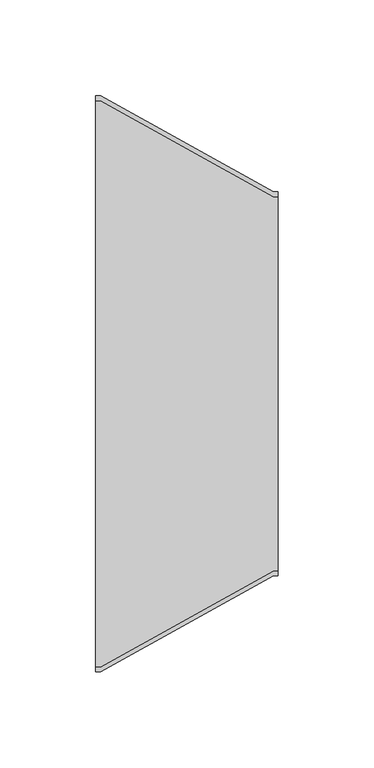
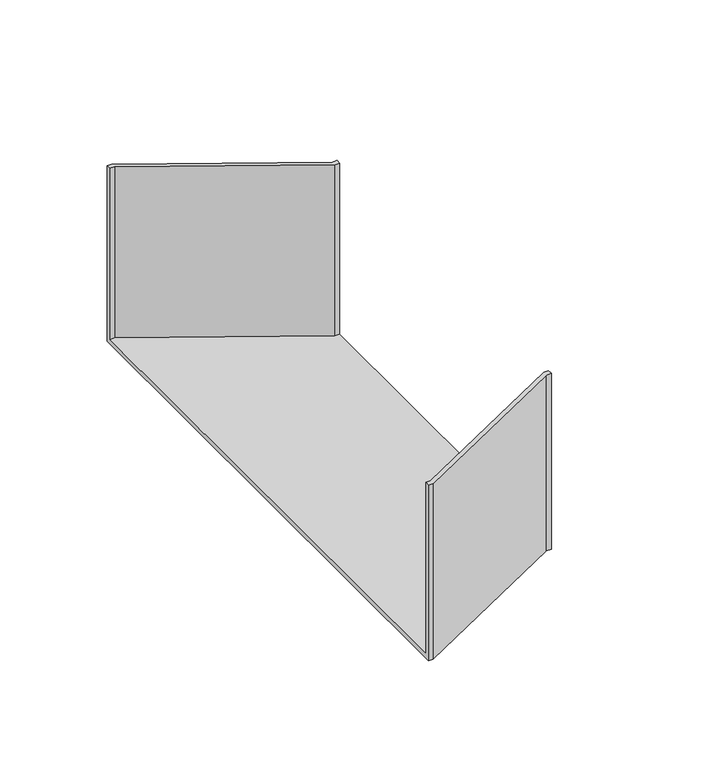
"""IFC4 building model written with IfcOpenShell, lengths in millimetres: cable carrier fitting geometry, BAKS_Reducer : RK(S/L/P)J_H100."""

from ifc_helpers import new_model, si_unit, origin, place, context, project, spatial, faceted_brep, source, transform, mapped, element, save


def cable_carrier_fitting_389af67d(model_context):
    return source(origin(), model_context, "Body", "Brep", [
        faceted_brep([(0.0, -150.0, -50.0), (0.0, -150.0, 50.0), (0.0, -147.46, 50.0), (0.0, -147.46, -47.46), (0.0, 147.46, -47.46), (0.0, 147.46, 50.0), (0.0, 150.0, 50.0), (0.0, 150.0, -50.0), (95.0, -100.0, -50.0), (95.0, 100.0, -50.0), (95.0, 100.0, 50.0), (95.0, 97.46, 50.0), (95.0, 97.46, -47.46), (95.0, -97.46, -47.46), (95.0, -97.46, 50.0), (95.0, -100.0, 50.0), (2.5, -150.0, -50.0), (2.5, -150.0, 50.0), (92.5, -100.0, 50.0), (92.5, -97.46, 50.0), (2.5, -147.46, 50.0), (2.5, -147.46, -47.46), (92.5, -97.46, -47.46), (92.5, 97.46, -47.46), (2.5, 147.46, -47.46), (2.5, 147.46, 50.0), (92.5, 97.46, 50.0), (92.5, 100.0, 50.0), (2.5, 150.0, 50.0), (2.5, 150.0, -50.0), (92.5, 100.0, -50.0), (92.5, -100.0, -50.0)], [[[0, 1, 2, 3, 4, 5, 6, 7]], [[8, 9, 10, 11, 12, 13, 14, 15]], [[1, 0, 16, 17]], [[2, 1, 17, 18, 15, 14, 19, 20]], [[3, 2, 20, 21]], [[4, 3, 21, 22, 13, 12, 23, 24]], [[5, 4, 24, 25]], [[6, 5, 25, 26, 11, 10, 27, 28]], [[7, 6, 28, 29]], [[0, 7, 29, 30, 9, 8, 31, 16]], [[8, 15, 18, 31]], [[14, 13, 22, 19]], [[12, 11, 26, 23]], [[10, 9, 30, 27]], [[30, 29, 28, 27]], [[26, 25, 24, 23]], [[22, 21, 20, 19]], [[16, 31, 18, 17]]]),
    ])


if __name__ == "__main__":
    model = new_model("IFC4")
    model_context = context("Model", 3, world=origin())
    ifc_project = project(units=[si_unit("LENGTHUNIT", "METRE", prefix="MILLI")], contexts=[model_context])
    site = spatial("IfcSite", under=ifc_project)
    building = spatial("IfcBuilding", under=site)
    placement = place(None, origin())
    cable_carrier_fitting_shape = cable_carrier_fitting_389af67d(model_context)
    element("IfcCableCarrierFitting", 1, ObjectType="BAKS_Reducer : RK(S/L/P)J_H100", at=placement, inside=building, context=model_context, shape_type="MappedRepresentation", body=[
        mapped(cable_carrier_fitting_shape, transform((0.0, 0.0, 0.0), x_axis=(1.0, 0.0, 0.0), y_axis=(0.0, 1.0, 0.0), z_axis=(0.0, 0.0, 1.0))),
    ])
    save(model, "model.ifc")
